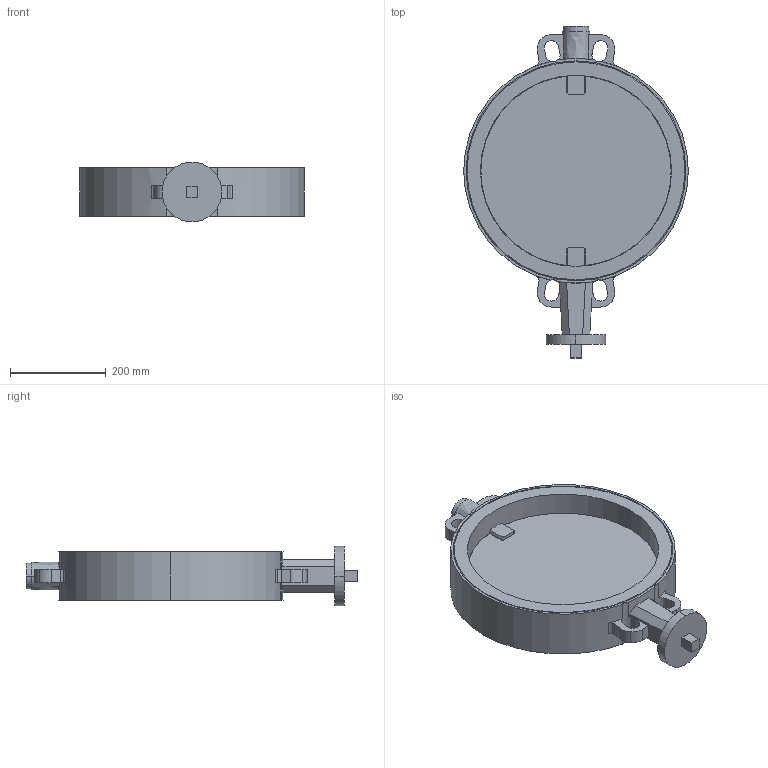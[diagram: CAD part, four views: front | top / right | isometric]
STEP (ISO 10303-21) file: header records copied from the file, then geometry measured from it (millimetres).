
FILE_DESCRIPTION((''),'2;1');
FILE_NAME('KL000021.dwg.stp','2006-10-04T11:30:35',(''),(''),'Mechanical Desktop 2006','Mechanical Desktop 2006',', , ');
FILE_SCHEMA(('AUTOMOTIVE_DESIGN { 1 2 10303 214 0 1 1 1 }'));
Length unit declared in the file: millimetre
Products named in the file (1): Product
Bounding box: 470 x 694.5 x 125 mm (x, y, z)
Volume: 6684668.5 mm3; surface area: 1031113.1 mm2
Topology: 20 solids, 20 shells, 472 faces, 1310 edges, 872 vertices
Faces by surface type: cylinder 204, plane 188, bspline 52, cone 20, sphere 8
Entity records: 15863 total; most frequent: CARTESIAN_POINT 3447, DIRECTION 2646, ORIENTED_EDGE 2620, EDGE_CURVE 1310, AXIS2_PLACEMENT_3D 959, VERTEX_POINT 872, VECTOR 728, LINE 728
